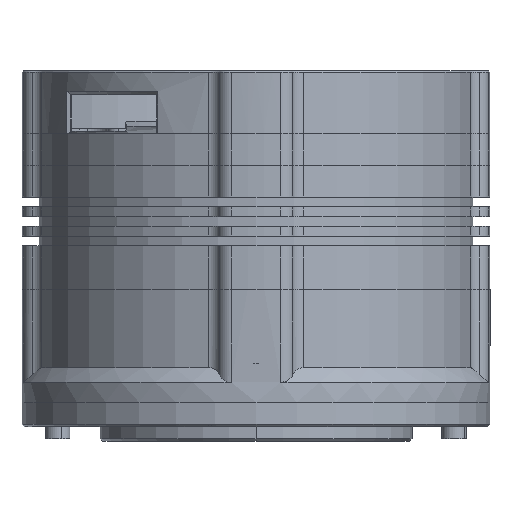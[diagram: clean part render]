
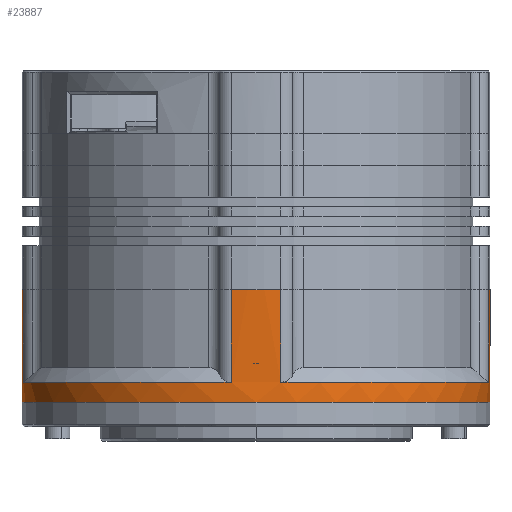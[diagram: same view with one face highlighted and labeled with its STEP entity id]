
A CAD part, front view. The second image highlights one B-rep face of the part: STEP entity #23887.
In plain terms, the highlighted cylindrical face has radius 48 mm (diameter 96 mm), a partial arc.
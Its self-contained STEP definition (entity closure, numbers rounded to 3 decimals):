
#50 = VERTEX_POINT ( 'NONE', #31537 ) ;
#155 = DIRECTION ( 'NONE',  ( 0., 0., 1. ) ) ;
#465 = VERTEX_POINT ( 'NONE', #18236 ) ;
#735 = EDGE_CURVE ( 'NONE', #3904, #31009, #6861, .T. ) ;
#989 = EDGE_CURVE ( 'NONE', #28168, #5556, #19975, .T. ) ;
#1136 = CARTESIAN_POINT ( 'NONE',  ( 0., 0., -48. ) ) ;
#1195 = CARTESIAN_POINT ( 'NONE',  ( 0., 4.1, 0. ) ) ;
#1776 = VECTOR ( 'NONE', #21730, 1000. ) ;
#2275 = LINE ( 'NONE', #10420, #30935 ) ;
#2560 = ORIENTED_EDGE ( 'NONE', *, *, #735, .T. ) ;
#3904 = VERTEX_POINT ( 'NONE', #12543 ) ;
#3969 = ORIENTED_EDGE ( 'NONE', *, *, #19734, .T. ) ;
#4016 = CIRCLE ( 'NONE', #10908, 48. ) ;
#4360 = CIRCLE ( 'NONE', #37982, 48. ) ;
#4378 = EDGE_CURVE ( 'NONE', #20443, #18685, #29120, .T. ) ;
#4484 = EDGE_CURVE ( 'NONE', #27691, #3904, #22990, .T. ) ;
#4792 = CARTESIAN_POINT ( 'NONE',  ( 0., 23.1, 0. ) ) ;
#5556 = VERTEX_POINT ( 'NONE', #11904 ) ;
#6666 = DIRECTION ( 'NONE',  ( 0., 1., 0. ) ) ;
#6861 = LINE ( 'NONE', #23556, #13173 ) ;
#7092 = DIRECTION ( 'NONE',  ( 0., -1., 0. ) ) ;
#7353 = ORIENTED_EDGE ( 'NONE', *, *, #42177, .F. ) ;
#7416 = LINE ( 'NONE', #11282, #12944 ) ;
#8368 = ORIENTED_EDGE ( 'NONE', *, *, #35982, .T. ) ;
#8926 = LINE ( 'NONE', #22158, #1776 ) ;
#9101 = ORIENTED_EDGE ( 'NONE', *, *, #24590, .F. ) ;
#9105 = CARTESIAN_POINT ( 'NONE',  ( -47.729, 23.1, 5.093 ) ) ;
#9107 = DIRECTION ( 'NONE',  ( 0., -1., 0. ) ) ;
#9311 = CARTESIAN_POINT ( 'NONE',  ( -47.729, 4.1, -5.093 ) ) ;
#10420 = CARTESIAN_POINT ( 'NONE',  ( -5.093, 23.1, 47.729 ) ) ;
#10908 = AXIS2_PLACEMENT_3D ( 'NONE', #22959, #16979, #20377 ) ;
#11282 = CARTESIAN_POINT ( 'NONE',  ( 0., 23.1, -48. ) ) ;
#11390 = ORIENTED_EDGE ( 'NONE', *, *, #989, .T. ) ;
#11904 = CARTESIAN_POINT ( 'NONE',  ( -47.729, 4.1, 5.093 ) ) ;
#12139 = EDGE_CURVE ( 'NONE', #41483, #12417, #7416, .T. ) ;
#12417 = VERTEX_POINT ( 'NONE', #1136 ) ;
#12543 = CARTESIAN_POINT ( 'NONE',  ( -5.093, 4.1, -47.729 ) ) ;
#12826 = CARTESIAN_POINT ( 'NONE',  ( 0., 0., 0. ) ) ;
#12944 = VECTOR ( 'NONE', #40101, 1000. ) ;
#13173 = VECTOR ( 'NONE', #36791, 1000. ) ;
#13493 = CARTESIAN_POINT ( 'NONE',  ( -5.093, 23.1, 47.729 ) ) ;
#13550 = CARTESIAN_POINT ( 'NONE',  ( 0., 4.1, 0. ) ) ;
#14381 = ORIENTED_EDGE ( 'NONE', *, *, #22135, .F. ) ;
#14477 = FACE_OUTER_BOUND ( 'NONE', #26921, .T. ) ;
#14558 = ORIENTED_EDGE ( 'NONE', *, *, #16021, .T. ) ;
#15537 = DIRECTION ( 'NONE',  ( 0., 1., 0. ) ) ;
#16021 = EDGE_CURVE ( 'NONE', #50, #27691, #38375, .T. ) ;
#16093 = CARTESIAN_POINT ( 'NONE',  ( -5.093, 23.1, -47.729 ) ) ;
#16516 = ORIENTED_EDGE ( 'NONE', *, *, #4378, .F. ) ;
#16979 = DIRECTION ( 'NONE',  ( 0., 1., 0. ) ) ;
#17111 = CARTESIAN_POINT ( 'NONE',  ( 0., 0., 48. ) ) ;
#17259 = DIRECTION ( 'NONE',  ( 0., -1., 0. ) ) ;
#17283 = DIRECTION ( 'NONE',  ( 0., -1., 0. ) ) ;
#18236 = CARTESIAN_POINT ( 'NONE',  ( -47.729, 23.1, 5.093 ) ) ;
#18685 = VERTEX_POINT ( 'NONE', #29346 ) ;
#19488 = VECTOR ( 'NONE', #9107, 1000. ) ;
#19734 = EDGE_CURVE ( 'NONE', #20443, #28168, #2275, .T. ) ;
#19975 = CIRCLE ( 'NONE', #41825, 48. ) ;
#20093 = CIRCLE ( 'NONE', #41220, 48. ) ;
#20377 = DIRECTION ( 'NONE',  ( 0., 0., 1. ) ) ;
#20443 = VERTEX_POINT ( 'NONE', #13493 ) ;
#20451 = DIRECTION ( 'NONE',  ( 0., 0., -1. ) ) ;
#20568 = ORIENTED_EDGE ( 'NONE', *, *, #12139, .T. ) ;
#21475 = DIRECTION ( 'NONE',  ( 0., 0., 1. ) ) ;
#21730 = DIRECTION ( 'NONE',  ( 0., -1., 0. ) ) ;
#21915 = LINE ( 'NONE', #9105, #39167 ) ;
#22135 = EDGE_CURVE ( 'NONE', #50, #465, #4360, .T. ) ;
#22158 = CARTESIAN_POINT ( 'NONE',  ( 0., 23.1, 48. ) ) ;
#22959 = CARTESIAN_POINT ( 'NONE',  ( 0., 23.1, 0. ) ) ;
#22990 = CIRCLE ( 'NONE', #29832, 48. ) ;
#23556 = CARTESIAN_POINT ( 'NONE',  ( -5.093, 23.1, -47.729 ) ) ;
#23887 = ADVANCED_FACE ( 'NONE', ( #14477 ), #24289, .T. ) ;
#24289 = CYLINDRICAL_SURFACE ( 'NONE', #27881, 48. ) ;
#24590 = EDGE_CURVE ( 'NONE', #41483, #31009, #4016, .T. ) ;
#25936 = DIRECTION ( 'NONE',  ( 0., 0., 1. ) ) ;
#26921 = EDGE_LOOP ( 'NONE', ( #7353, #16516, #3969, #11390, #8368, #14381, #14558, #29156, #2560, #9101, #20568, #36261 ) ) ;
#27093 = DIRECTION ( 'NONE',  ( 0., 0., 1. ) ) ;
#27292 = EDGE_CURVE ( 'NONE', #12417, #38252, #20093, .T. ) ;
#27691 = VERTEX_POINT ( 'NONE', #9311 ) ;
#27881 = AXIS2_PLACEMENT_3D ( 'NONE', #37318, #17259, #20451 ) ;
#28168 = VERTEX_POINT ( 'NONE', #35332 ) ;
#29057 = DIRECTION ( 'NONE',  ( 0., 1., 0. ) ) ;
#29120 = CIRCLE ( 'NONE', #31143, 48. ) ;
#29156 = ORIENTED_EDGE ( 'NONE', *, *, #4484, .T. ) ;
#29346 = CARTESIAN_POINT ( 'NONE',  ( 0., 23.1, 48. ) ) ;
#29832 = AXIS2_PLACEMENT_3D ( 'NONE', #13550, #7092, #33195 ) ;
#30268 = CARTESIAN_POINT ( 'NONE',  ( 0., 23.1, -48. ) ) ;
#30935 = VECTOR ( 'NONE', #36265, 1000. ) ;
#31009 = VERTEX_POINT ( 'NONE', #16093 ) ;
#31143 = AXIS2_PLACEMENT_3D ( 'NONE', #41956, #6666, #25936 ) ;
#31537 = CARTESIAN_POINT ( 'NONE',  ( -47.729, 23.1, -5.093 ) ) ;
#33195 = DIRECTION ( 'NONE',  ( 0., 0., 1. ) ) ;
#35332 = CARTESIAN_POINT ( 'NONE',  ( -5.093, 4.1, 47.729 ) ) ;
#35982 = EDGE_CURVE ( 'NONE', #5556, #465, #21915, .T. ) ;
#36261 = ORIENTED_EDGE ( 'NONE', *, *, #27292, .T. ) ;
#36265 = DIRECTION ( 'NONE',  ( 0., -1., 0. ) ) ;
#36791 = DIRECTION ( 'NONE',  ( 0., 1., 0. ) ) ;
#37318 = CARTESIAN_POINT ( 'NONE',  ( 0., 23.1, 0. ) ) ;
#37982 = AXIS2_PLACEMENT_3D ( 'NONE', #4792, #40928, #21475 ) ;
#38252 = VERTEX_POINT ( 'NONE', #17111 ) ;
#38375 = LINE ( 'NONE', #41999, #19488 ) ;
#39167 = VECTOR ( 'NONE', #15537, 1000. ) ;
#40101 = DIRECTION ( 'NONE',  ( 0., -1., 0. ) ) ;
#40928 = DIRECTION ( 'NONE',  ( 0., 1., 0. ) ) ;
#41220 = AXIS2_PLACEMENT_3D ( 'NONE', #12826, #29057, #155 ) ;
#41483 = VERTEX_POINT ( 'NONE', #30268 ) ;
#41825 = AXIS2_PLACEMENT_3D ( 'NONE', #1195, #17283, #27093 ) ;
#41956 = CARTESIAN_POINT ( 'NONE',  ( 0., 23.1, 0. ) ) ;
#41999 = CARTESIAN_POINT ( 'NONE',  ( -47.729, 23.1, -5.093 ) ) ;
#42177 = EDGE_CURVE ( 'NONE', #18685, #38252, #8926, .T. ) ;
